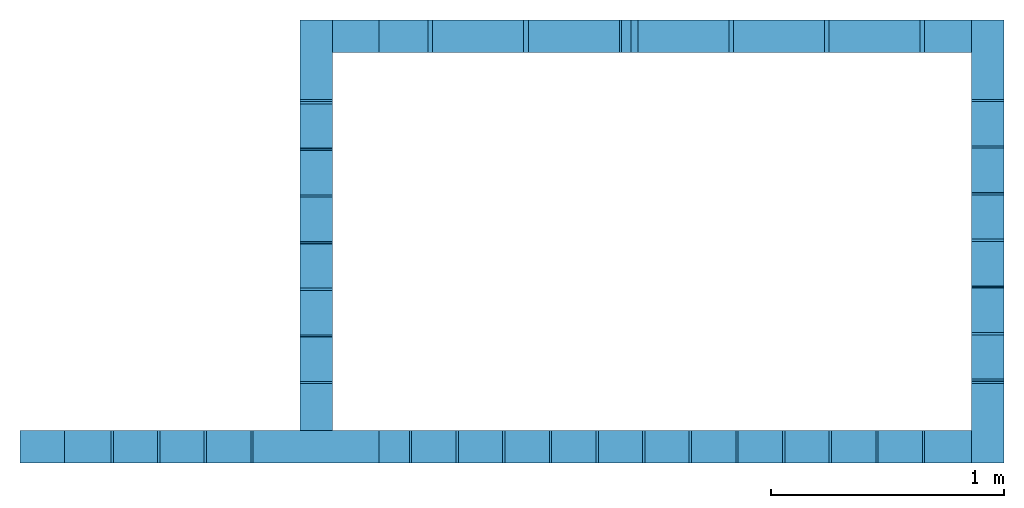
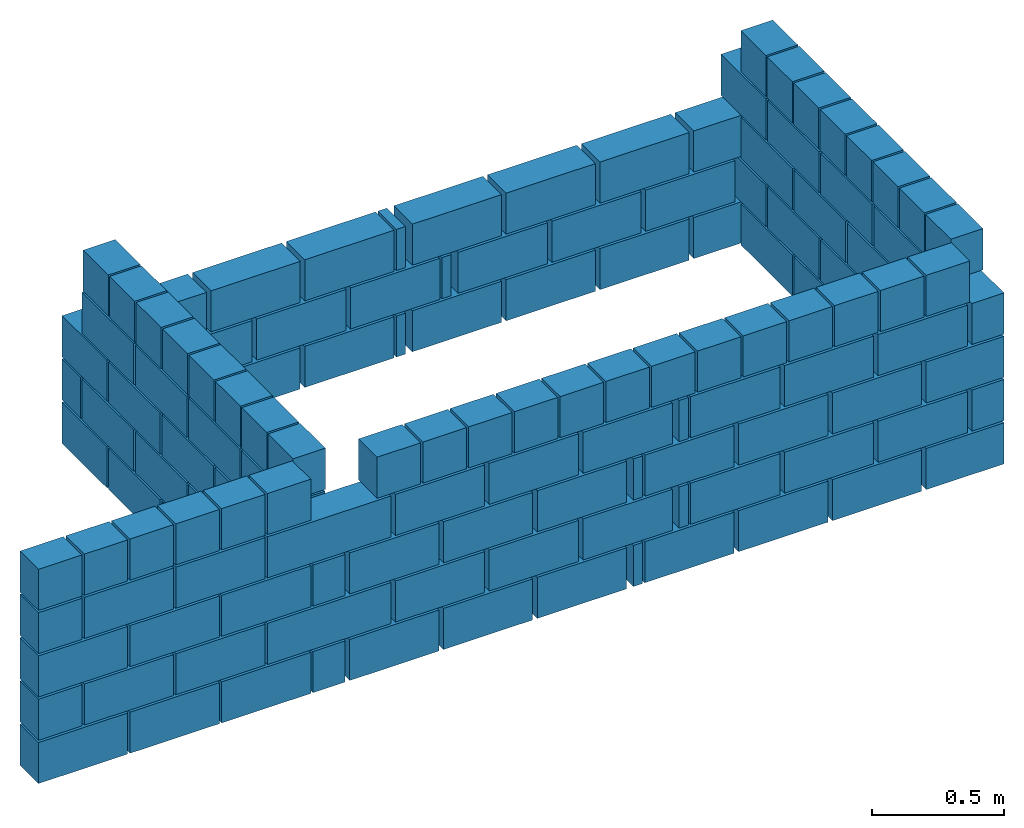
# One storey: 10 walls.
"""IFC4 building model written with IfcOpenShell, lengths in centimetres."""

from ifc_helpers import new_model, si_unit, derived_unit, frame, origin, origin_with_axes, origin_2d_with_axis, place, context, project, spatial, rectangle, extrude, element, save


model = new_model("IFC4")

# Units and contexts
model_context = context("Model", 3, precision=1e-05, world=origin_with_axes(), identifier="Body")
ifc_project = project(units=[si_unit("LENGTHUNIT", "METRE", prefix="CENTI"), si_unit("VOLUMEUNIT", "CUBIC_METRE"), si_unit("AREAUNIT", "SQUARE_METRE"), si_unit("POWERUNIT", "WATT"), si_unit("LUMINOUSFLUXUNIT", "LUMEN"), si_unit("ELECTRICCURRENTUNIT", "AMPERE"), si_unit("PRESSUREUNIT", "PASCAL", prefix="KILO"), si_unit("MASSUNIT", "GRAM", prefix="KILO"), si_unit("PLANEANGLEUNIT", "RADIAN"), derived_unit("VOLUMETRICFLOWRATEUNIT", [(si_unit("LENGTHUNIT", "METRE"), 3), (si_unit("TIMEUNIT", "SECOND"), -1)])], contexts=[model_context])

# Site, building, storey
site_placement = place(None, origin_with_axes())
site = spatial("IfcSite", under=ifc_project, at=site_placement)
building_placement = place(site_placement, origin())
building = spatial("IfcBuilding", under=site, at=building_placement)
placement_1 = place(building_placement, origin_with_axes())
placement_2 = place(placement_1, frame((0.0, 0.0, 272.0), z_axis=(0.0, 0.0, 1.0), x_axis=(1.0, 0.0, 0.0)))
placement_3 = place(placement_2, frame((0.0, 0.0, 100.0), z_axis=(0.0, 0.0, 1.0), x_axis=(1.0, 0.0, 0.0)))
storey_placement = place(placement_3, frame((0.0, 0.0, 60.0), z_axis=(0.0, 0.0, 1.0), x_axis=(1.0, 0.0, 0.0)))
storey = spatial("IfcBuildingStorey", under=building, at=storey_placement, Name="RESP2", CompositionType="ELEMENT", Elevation=432.0)

# Walls
wall_1_placement = place(storey_placement, frame((682.01, 391.01, 79.0), z_axis=(0.0, 0.0, 1.0), x_axis=(1.0, 0.0, 0.0)))
element("IfcWall", 1, at=wall_1_placement, inside=storey, context=model_context, shape_type="SolidModel", body=[
    extrude(rectangle(XDim=34.0, YDim=14.0, at=origin_2d_with_axis()), frame((0.0, -10.0, -79.0), z_axis=(0.0, 0.0, 1.0), x_axis=(-1.0, 0.0, 0.0)), (0.0, 0.0, 1.0), 19.0),
    extrude(rectangle(XDim=34.0, YDim=14.0, at=origin_2d_with_axis()), frame((10.0, 0.0, -59.0), z_axis=(0.0, 0.0, 1.0), x_axis=(0.0, 1.0, 0.0)), (0.0, 0.0, 1.0), 19.0),
    extrude(rectangle(XDim=34.0, YDim=14.0, at=origin_2d_with_axis()), frame((0.0, -10.0, -39.0), z_axis=(0.0, 0.0, 1.0), x_axis=(-1.0, 0.0, 0.0)), (0.0, 0.0, 1.0), 19.0),
    extrude(rectangle(XDim=34.0, YDim=14.0, at=origin_2d_with_axis()), frame((10.0, 0.0, -19.0), z_axis=(0.0, 0.0, 1.0), x_axis=(0.0, 1.0, 0.0)), (0.0, 0.0, 1.0), 19.0),
])
wall_2_placement = place(storey_placement, frame((296.5, 381.01, 79.0), z_axis=(0.0, 0.0, 1.0), x_axis=(1.0, 0.0, 0.0)))
element("IfcWall", 2, at=wall_2_placement, inside=storey, context=model_context, shape_type="SolidModel", body=[
    extrude(rectangle(XDim=39.0, YDim=14.0, at=origin_2d_with_axis()), frame((0.0, 0.0, -79.0), z_axis=(0.0, 0.0, 1.0), x_axis=(1.0, 0.0, 0.0)), (0.0, 0.0, 1.0), 19.0),
    extrude(rectangle(XDim=19.0, YDim=14.0, at=origin_2d_with_axis()), frame((-10.0, 0.0, -59.0), z_axis=(0.0, 0.0, 1.0), x_axis=(1.0, 0.0, 0.0)), (0.0, 0.0, 1.0), 19.0),
    extrude(rectangle(XDim=39.0, YDim=14.0, at=origin_2d_with_axis()), frame((0.0, 0.0, -39.0), z_axis=(0.0, 0.0, 1.0), x_axis=(1.0, 0.0, 0.0)), (0.0, 0.0, 1.0), 19.0),
    extrude(rectangle(XDim=19.0, YDim=14.0, at=origin_2d_with_axis()), frame((-10.0, 0.0, -19.0), z_axis=(0.0, 0.0, 1.0), x_axis=(1.0, 0.0, 0.0)), (0.0, 0.0, 1.0), 19.0),
])
wall_3_placement = place(storey_placement, frame((682.01, 547.01, 79.0), z_axis=(0.0, 0.0, 1.0), x_axis=(1.0, 0.0, 0.0)))
element("IfcWall", 3, at=wall_3_placement, inside=storey, context=model_context, shape_type="SolidModel", body=[
    extrude(rectangle(XDim=34.0, YDim=14.0, at=origin_2d_with_axis()), frame((0.0, 10.0, -79.0), z_axis=(0.0, 0.0, 1.0), x_axis=(-1.0, 0.0, 0.0)), (0.0, 0.0, 1.0), 19.0),
    extrude(rectangle(XDim=34.0, YDim=14.0, at=origin_2d_with_axis()), frame((10.0, 0.0, -59.0), z_axis=(0.0, 0.0, 1.0), x_axis=(0.0, -1.0, 0.0)), (0.0, 0.0, 1.0), 19.0),
    extrude(rectangle(XDim=34.0, YDim=14.0, at=origin_2d_with_axis()), frame((0.0, 10.0, -39.0), z_axis=(0.0, 0.0, 1.0), x_axis=(-1.0, 0.0, 0.0)), (0.0, 0.0, 1.0), 19.0),
    extrude(rectangle(XDim=34.0, YDim=14.0, at=origin_2d_with_axis()), frame((10.0, 0.0, -19.0), z_axis=(0.0, 0.0, 1.0), x_axis=(0.0, -1.0, 0.0)), (0.0, 0.0, 1.0), 19.0),
])
wall_4_placement = place(storey_placement, frame((404.01, 391.01, 79.0), z_axis=(0.0, 0.0, 1.0), x_axis=(1.0, 0.0, 0.0)))
element("IfcWall", 4, at=wall_4_placement, inside=storey, context=model_context, shape_type="SolidModel", body=[
    extrude(rectangle(XDim=34.0, YDim=14.0, at=origin_2d_with_axis()), frame((0.0, 0.0, -79.0), z_axis=(0.0, 0.0, 1.0), x_axis=(0.0, 1.0, 0.0)), (0.0, 0.0, 1.0), 19.0),
    extrude(rectangle(XDim=54.0, YDim=14.0, at=origin_2d_with_axis()), frame((0.0, -10.0, -59.0), z_axis=(0.0, 0.0, 1.0), x_axis=(-1.0, 0.0, 0.0)), (0.0, 0.0, 1.0), 19.0),
    extrude(rectangle(XDim=34.0, YDim=14.0, at=origin_2d_with_axis()), frame((0.0, 0.0, -39.0), z_axis=(0.0, 0.0, 1.0), x_axis=(0.0, 1.0, 0.0)), (0.0, 0.0, 1.0), 19.0),
    extrude(rectangle(XDim=54.0, YDim=14.0, at=origin_2d_with_axis()), frame((0.0, -10.0, -19.0), z_axis=(0.0, 0.0, 1.0), x_axis=(-1.0, 0.0, 0.0)), (0.0, 0.0, 1.0), 19.0),
])
wall_5_placement = place(storey_placement, frame((414.01, 547.01, 59.0), z_axis=(0.0, 0.0, 1.0), x_axis=(1.0, 0.0, 0.0)))
element("IfcWall", 5, at=wall_5_placement, inside=storey, context=model_context, shape_type="SolidModel", body=[
    extrude(rectangle(XDim=34.0, YDim=14.0, at=origin_2d_with_axis()), frame((-10.0, 0.0, -59.0), z_axis=(0.0, 0.0, 1.0), x_axis=(0.0, -1.0, 0.0)), (0.0, 0.0, 1.0), 19.0),
    extrude(rectangle(XDim=34.0, YDim=14.0, at=origin_2d_with_axis()), frame((0.0, 10.0, -39.0), z_axis=(0.0, 0.0, 1.0), x_axis=(1.0, 0.0, 0.0)), (0.0, 0.0, 1.0), 19.0),
    extrude(rectangle(XDim=34.0, YDim=14.0, at=origin_2d_with_axis()), frame((-10.0, 0.0, -19.0), z_axis=(0.0, 0.0, 1.0), x_axis=(0.0, -1.0, 0.0)), (0.0, 0.0, 1.0), 19.0),
])
wall_6_placement = place(storey_placement, frame((548.01, 557.01, 59.0), z_axis=(0.0, 0.0, 1.0), x_axis=(1.0, 0.0, 0.0)))
element("IfcWall", 6, at=wall_6_placement, inside=storey, Name="PAR-RESP2-1", context=model_context, shape_type="SolidModel", body=[
    extrude(rectangle(XDim=39.0, YDim=14.0, at=origin_2d_with_axis()), frame((-115.5, 0.0, -59.0), z_axis=(0.0, 0.0, 1.0), x_axis=(1.0, 0.0, 0.0)), (0.0, 0.0, 1.0), 19.0),
    extrude(rectangle(XDim=39.0, YDim=14.0, at=origin_2d_with_axis()), frame((-74.5, 0.0, -59.0), z_axis=(0.0, 0.0, 1.0), x_axis=(1.0, 0.0, 0.0)), (0.0, 0.0, 1.0), 19.0),
    extrude(rectangle(XDim=39.0, YDim=14.0, at=origin_2d_with_axis()), frame((-33.5, 0.0, -59.0), z_axis=(0.0, 0.0, 1.0), x_axis=(1.0, 0.0, 0.0)), (0.0, 0.0, 1.0), 19.0),
    extrude(rectangle(XDim=39.0, YDim=14.0, at=origin_2d_with_axis()), frame((13.5, 0.0, -59.0), z_axis=(0.0, 0.0, 1.0), x_axis=(1.0, 0.0, 0.0)), (0.0, 0.0, 1.0), 19.0),
    extrude(rectangle(XDim=39.0, YDim=14.0, at=origin_2d_with_axis()), frame((54.5, 0.0, -59.0), z_axis=(0.0, 0.0, 1.0), x_axis=(1.0, 0.0, 0.0)), (0.0, 0.0, 1.0), 19.0),
    extrude(rectangle(XDim=39.0, YDim=14.0, at=origin_2d_with_axis()), frame((95.5, 0.0, -59.0), z_axis=(0.0, 0.0, 1.0), x_axis=(1.0, 0.0, 0.0)), (0.0, 0.0, 1.0), 19.0),
    extrude(rectangle(XDim=4.0, YDim=14.0, at=origin_2d_with_axis()), frame((-11.0, 0.0, -59.0), z_axis=(0.0, 0.0, 1.0), x_axis=(1.0, 0.0, 0.0)), (0.0, 0.0, 1.0), 19.0),
    extrude(rectangle(XDim=39.0, YDim=14.0, at=origin_2d_with_axis()), frame((-95.5, 0.0, -39.0), z_axis=(0.0, 0.0, 1.0), x_axis=(1.0, 0.0, 0.0)), (0.0, 0.0, 1.0), 19.0),
    extrude(rectangle(XDim=39.0, YDim=14.0, at=origin_2d_with_axis()), frame((-54.5, 0.0, -39.0), z_axis=(0.0, 0.0, 1.0), x_axis=(1.0, 0.0, 0.0)), (0.0, 0.0, 1.0), 19.0),
    extrude(rectangle(XDim=39.0, YDim=14.0, at=origin_2d_with_axis()), frame((-13.5, 0.0, -39.0), z_axis=(0.0, 0.0, 1.0), x_axis=(1.0, 0.0, 0.0)), (0.0, 0.0, 1.0), 19.0),
    extrude(rectangle(XDim=39.0, YDim=14.0, at=origin_2d_with_axis()), frame((33.5, 0.0, -39.0), z_axis=(0.0, 0.0, 1.0), x_axis=(1.0, 0.0, 0.0)), (0.0, 0.0, 1.0), 19.0),
    extrude(rectangle(XDim=39.0, YDim=14.0, at=origin_2d_with_axis()), frame((74.5, 0.0, -39.0), z_axis=(0.0, 0.0, 1.0), x_axis=(1.0, 0.0, 0.0)), (0.0, 0.0, 1.0), 19.0),
    extrude(rectangle(XDim=39.0, YDim=14.0, at=origin_2d_with_axis()), frame((115.5, 0.0, -39.0), z_axis=(0.0, 0.0, 1.0), x_axis=(1.0, 0.0, 0.0)), (0.0, 0.0, 1.0), 19.0),
    extrude(rectangle(XDim=4.0, YDim=14.0, at=origin_2d_with_axis()), frame((9.0, 0.0, -39.0), z_axis=(0.0, 0.0, 1.0), x_axis=(1.0, 0.0, 0.0)), (0.0, 0.0, 1.0), 19.0),
    extrude(rectangle(XDim=39.0, YDim=14.0, at=origin_2d_with_axis()), frame((-115.5, 0.0, -19.0), z_axis=(0.0, 0.0, 1.0), x_axis=(1.0, 0.0, 0.0)), (0.0, 0.0, 1.0), 19.0),
    extrude(rectangle(XDim=39.0, YDim=14.0, at=origin_2d_with_axis()), frame((-74.5, 0.0, -19.0), z_axis=(0.0, 0.0, 1.0), x_axis=(1.0, 0.0, 0.0)), (0.0, 0.0, 1.0), 19.0),
    extrude(rectangle(XDim=39.0, YDim=14.0, at=origin_2d_with_axis()), frame((-33.5, 0.0, -19.0), z_axis=(0.0, 0.0, 1.0), x_axis=(1.0, 0.0, 0.0)), (0.0, 0.0, 1.0), 19.0),
    extrude(rectangle(XDim=39.0, YDim=14.0, at=origin_2d_with_axis()), frame((13.5, 0.0, -19.0), z_axis=(0.0, 0.0, 1.0), x_axis=(1.0, 0.0, 0.0)), (0.0, 0.0, 1.0), 19.0),
    extrude(rectangle(XDim=39.0, YDim=14.0, at=origin_2d_with_axis()), frame((54.5, 0.0, -19.0), z_axis=(0.0, 0.0, 1.0), x_axis=(1.0, 0.0, 0.0)), (0.0, 0.0, 1.0), 19.0),
    extrude(rectangle(XDim=39.0, YDim=14.0, at=origin_2d_with_axis()), frame((95.5, 0.0, -19.0), z_axis=(0.0, 0.0, 1.0), x_axis=(1.0, 0.0, 0.0)), (0.0, 0.0, 1.0), 19.0),
    extrude(rectangle(XDim=4.0, YDim=14.0, at=origin_2d_with_axis()), frame((-11.0, 0.0, -19.0), z_axis=(0.0, 0.0, 1.0), x_axis=(1.0, 0.0, 0.0)), (0.0, 0.0, 1.0), 19.0),
])
wall_7_placement = place(storey_placement, frame((548.51, 381.01, 99.0), z_axis=(0.0, 0.0, 1.0), x_axis=(1.0, 0.0, 0.0)))
element("IfcWall", 7, at=wall_7_placement, inside=storey, Name="PAR-RESP2-2", context=model_context, shape_type="SolidModel", body=[
    extrude(rectangle(XDim=39.0, YDim=14.0, at=origin_2d_with_axis()), frame((95.0, 0.0, -99.0), z_axis=(0.0, 0.0, 1.0), x_axis=(-1.0, 0.0, 0.0)), (0.0, 0.0, 1.0), 19.0),
    extrude(rectangle(XDim=39.0, YDim=14.0, at=origin_2d_with_axis()), frame((54.0, 0.0, -99.0), z_axis=(0.0, 0.0, 1.0), x_axis=(-1.0, 0.0, 0.0)), (0.0, 0.0, 1.0), 19.0),
    extrude(rectangle(XDim=39.0, YDim=14.0, at=origin_2d_with_axis()), frame((13.0, 0.0, -99.0), z_axis=(0.0, 0.0, 1.0), x_axis=(-1.0, 0.0, 0.0)), (0.0, 0.0, 1.0), 19.0),
    extrude(rectangle(XDim=39.0, YDim=14.0, at=origin_2d_with_axis()), frame((-34.0, 0.0, -99.0), z_axis=(0.0, 0.0, 1.0), x_axis=(-1.0, 0.0, 0.0)), (0.0, 0.0, 1.0), 19.0),
    extrude(rectangle(XDim=39.0, YDim=14.0, at=origin_2d_with_axis()), frame((-75.0, 0.0, -99.0), z_axis=(0.0, 0.0, 1.0), x_axis=(-1.0, 0.0, 0.0)), (0.0, 0.0, 1.0), 19.0),
    extrude(rectangle(XDim=39.0, YDim=14.0, at=origin_2d_with_axis()), frame((-116.0, 0.0, -99.0), z_axis=(0.0, 0.0, 1.0), x_axis=(-1.0, 0.0, 0.0)), (0.0, 0.0, 1.0), 19.0),
    extrude(rectangle(XDim=4.0, YDim=14.0, at=origin_2d_with_axis()), frame((-9.5, 0.0, -99.0), z_axis=(0.0, 0.0, 1.0), x_axis=(-1.0, 0.0, 0.0)), (0.0, 0.0, 1.0), 19.0),
    extrude(rectangle(XDim=39.0, YDim=14.0, at=origin_2d_with_axis()), frame((115.0, 0.0, -79.0), z_axis=(0.0, 0.0, 1.0), x_axis=(-1.0, 0.0, 0.0)), (0.0, 0.0, 1.0), 19.0),
    extrude(rectangle(XDim=39.0, YDim=14.0, at=origin_2d_with_axis()), frame((74.0, 0.0, -79.0), z_axis=(0.0, 0.0, 1.0), x_axis=(-1.0, 0.0, 0.0)), (0.0, 0.0, 1.0), 19.0),
    extrude(rectangle(XDim=39.0, YDim=14.0, at=origin_2d_with_axis()), frame((33.0, 0.0, -79.0), z_axis=(0.0, 0.0, 1.0), x_axis=(-1.0, 0.0, 0.0)), (0.0, 0.0, 1.0), 19.0),
    extrude(rectangle(XDim=39.0, YDim=14.0, at=origin_2d_with_axis()), frame((-14.0, 0.0, -79.0), z_axis=(0.0, 0.0, 1.0), x_axis=(-1.0, 0.0, 0.0)), (0.0, 0.0, 1.0), 19.0),
    extrude(rectangle(XDim=39.0, YDim=14.0, at=origin_2d_with_axis()), frame((-55.0, 0.0, -79.0), z_axis=(0.0, 0.0, 1.0), x_axis=(-1.0, 0.0, 0.0)), (0.0, 0.0, 1.0), 19.0),
    extrude(rectangle(XDim=39.0, YDim=14.0, at=origin_2d_with_axis()), frame((-96.0, 0.0, -79.0), z_axis=(0.0, 0.0, 1.0), x_axis=(-1.0, 0.0, 0.0)), (0.0, 0.0, 1.0), 19.0),
    extrude(rectangle(XDim=4.0, YDim=14.0, at=origin_2d_with_axis()), frame((10.5, 0.0, -79.0), z_axis=(0.0, 0.0, 1.0), x_axis=(-1.0, 0.0, 0.0)), (0.0, 0.0, 1.0), 19.0),
    extrude(rectangle(XDim=39.0, YDim=14.0, at=origin_2d_with_axis()), frame((95.0, 0.0, -59.0), z_axis=(0.0, 0.0, 1.0), x_axis=(-1.0, 0.0, 0.0)), (0.0, 0.0, 1.0), 19.0),
    extrude(rectangle(XDim=39.0, YDim=14.0, at=origin_2d_with_axis()), frame((54.0, 0.0, -59.0), z_axis=(0.0, 0.0, 1.0), x_axis=(-1.0, 0.0, 0.0)), (0.0, 0.0, 1.0), 19.0),
    extrude(rectangle(XDim=39.0, YDim=14.0, at=origin_2d_with_axis()), frame((13.0, 0.0, -59.0), z_axis=(0.0, 0.0, 1.0), x_axis=(-1.0, 0.0, 0.0)), (0.0, 0.0, 1.0), 19.0),
    extrude(rectangle(XDim=39.0, YDim=14.0, at=origin_2d_with_axis()), frame((-34.0, 0.0, -59.0), z_axis=(0.0, 0.0, 1.0), x_axis=(-1.0, 0.0, 0.0)), (0.0, 0.0, 1.0), 19.0),
    extrude(rectangle(XDim=39.0, YDim=14.0, at=origin_2d_with_axis()), frame((-75.0, 0.0, -59.0), z_axis=(0.0, 0.0, 1.0), x_axis=(-1.0, 0.0, 0.0)), (0.0, 0.0, 1.0), 19.0),
    extrude(rectangle(XDim=39.0, YDim=14.0, at=origin_2d_with_axis()), frame((-116.0, 0.0, -59.0), z_axis=(0.0, 0.0, 1.0), x_axis=(-1.0, 0.0, 0.0)), (0.0, 0.0, 1.0), 19.0),
    extrude(rectangle(XDim=4.0, YDim=14.0, at=origin_2d_with_axis()), frame((-9.5, 0.0, -59.0), z_axis=(0.0, 0.0, 1.0), x_axis=(-1.0, 0.0, 0.0)), (0.0, 0.0, 1.0), 19.0),
    extrude(rectangle(XDim=39.0, YDim=14.0, at=origin_2d_with_axis()), frame((115.0, 0.0, -39.0), z_axis=(0.0, 0.0, 1.0), x_axis=(-1.0, 0.0, 0.0)), (0.0, 0.0, 1.0), 19.0),
    extrude(rectangle(XDim=39.0, YDim=14.0, at=origin_2d_with_axis()), frame((74.0, 0.0, -39.0), z_axis=(0.0, 0.0, 1.0), x_axis=(-1.0, 0.0, 0.0)), (0.0, 0.0, 1.0), 19.0),
    extrude(rectangle(XDim=39.0, YDim=14.0, at=origin_2d_with_axis()), frame((33.0, 0.0, -39.0), z_axis=(0.0, 0.0, 1.0), x_axis=(-1.0, 0.0, 0.0)), (0.0, 0.0, 1.0), 19.0),
    extrude(rectangle(XDim=39.0, YDim=14.0, at=origin_2d_with_axis()), frame((-14.0, 0.0, -39.0), z_axis=(0.0, 0.0, 1.0), x_axis=(-1.0, 0.0, 0.0)), (0.0, 0.0, 1.0), 19.0),
    extrude(rectangle(XDim=39.0, YDim=14.0, at=origin_2d_with_axis()), frame((-55.0, 0.0, -39.0), z_axis=(0.0, 0.0, 1.0), x_axis=(-1.0, 0.0, 0.0)), (0.0, 0.0, 1.0), 19.0),
    extrude(rectangle(XDim=39.0, YDim=14.0, at=origin_2d_with_axis()), frame((-96.0, 0.0, -39.0), z_axis=(0.0, 0.0, 1.0), x_axis=(-1.0, 0.0, 0.0)), (0.0, 0.0, 1.0), 19.0),
    extrude(rectangle(XDim=4.0, YDim=14.0, at=origin_2d_with_axis()), frame((10.5, 0.0, -39.0), z_axis=(0.0, 0.0, 1.0), x_axis=(-1.0, 0.0, 0.0)), (0.0, 0.0, 1.0), 19.0),
    extrude(rectangle(XDim=19.0, YDim=14.0, at=origin_2d_with_axis()), frame((126.0, 0.0, -19.0), z_axis=(0.0, 0.0, 1.0), x_axis=(-1.0, 0.0, 0.0)), (0.0, 0.0, 1.0), 19.0),
    extrude(rectangle(XDim=19.0, YDim=14.0, at=origin_2d_with_axis()), frame((106.0, 0.0, -19.0), z_axis=(0.0, 0.0, 1.0), x_axis=(-1.0, 0.0, 0.0)), (0.0, 0.0, 1.0), 19.0),
    extrude(rectangle(XDim=19.0, YDim=14.0, at=origin_2d_with_axis()), frame((86.0, 0.0, -19.0), z_axis=(0.0, 0.0, 1.0), x_axis=(-1.0, 0.0, 0.0)), (0.0, 0.0, 1.0), 19.0),
    extrude(rectangle(XDim=19.0, YDim=14.0, at=origin_2d_with_axis()), frame((66.0, 0.0, -19.0), z_axis=(0.0, 0.0, 1.0), x_axis=(-1.0, 0.0, 0.0)), (0.0, 0.0, 1.0), 19.0),
    extrude(rectangle(XDim=19.0, YDim=14.0, at=origin_2d_with_axis()), frame((46.0, 0.0, -19.0), z_axis=(0.0, 0.0, 1.0), x_axis=(-1.0, 0.0, 0.0)), (0.0, 0.0, 1.0), 19.0),
    extrude(rectangle(XDim=19.0, YDim=14.0, at=origin_2d_with_axis()), frame((26.0, 0.0, -19.0), z_axis=(0.0, 0.0, 1.0), x_axis=(-1.0, 0.0, 0.0)), (0.0, 0.0, 1.0), 19.0),
    extrude(rectangle(XDim=19.0, YDim=14.0, at=origin_2d_with_axis()), frame((6.0, 0.0, -19.0), z_axis=(0.0, 0.0, 1.0), x_axis=(-1.0, 0.0, 0.0)), (0.0, 0.0, 1.0), 19.0),
    extrude(rectangle(XDim=19.0, YDim=14.0, at=origin_2d_with_axis()), frame((-14.0, 0.0, -19.0), z_axis=(0.0, 0.0, 1.0), x_axis=(-1.0, 0.0, 0.0)), (0.0, 0.0, 1.0), 19.0),
    extrude(rectangle(XDim=19.0, YDim=14.0, at=origin_2d_with_axis()), frame((-34.0, 0.0, -19.0), z_axis=(0.0, 0.0, 1.0), x_axis=(-1.0, 0.0, 0.0)), (0.0, 0.0, 1.0), 19.0),
    extrude(rectangle(XDim=19.0, YDim=14.0, at=origin_2d_with_axis()), frame((-54.0, 0.0, -19.0), z_axis=(0.0, 0.0, 1.0), x_axis=(-1.0, 0.0, 0.0)), (0.0, 0.0, 1.0), 19.0),
    extrude(rectangle(XDim=19.0, YDim=14.0, at=origin_2d_with_axis()), frame((-74.0, 0.0, -19.0), z_axis=(0.0, 0.0, 1.0), x_axis=(-1.0, 0.0, 0.0)), (0.0, 0.0, 1.0), 19.0),
    extrude(rectangle(XDim=19.0, YDim=14.0, at=origin_2d_with_axis()), frame((-94.0, 0.0, -19.0), z_axis=(0.0, 0.0, 1.0), x_axis=(-1.0, 0.0, 0.0)), (0.0, 0.0, 1.0), 19.0),
    extrude(rectangle(XDim=19.0, YDim=14.0, at=origin_2d_with_axis()), frame((-114.0, 0.0, -19.0), z_axis=(0.0, 0.0, 1.0), x_axis=(-1.0, 0.0, 0.0)), (0.0, 0.0, 1.0), 19.0),
])
wall_8_placement = place(storey_placement, frame((336.51, 381.01, 99.0), z_axis=(0.0, 0.0, 1.0), x_axis=(1.0, 0.0, 0.0)))
element("IfcWall", 8, at=wall_8_placement, inside=storey, Name="PAR-RESP2-2", context=model_context, shape_type="SolidModel", body=[
    extrude(rectangle(XDim=39.0, YDim=14.0, at=origin_2d_with_axis()), frame((40.0, 0.0, -99.0), z_axis=(0.0, 0.0, 1.0), x_axis=(-1.0, 0.0, 0.0)), (0.0, 0.0, 1.0), 19.0),
    extrude(rectangle(XDim=39.0, YDim=14.0, at=origin_2d_with_axis()), frame((0.0, 0.0, -99.0), z_axis=(0.0, 0.0, 1.0), x_axis=(-1.0, 0.0, 0.0)), (0.0, 0.0, 1.0), 19.0),
    extrude(rectangle(XDim=39.0, YDim=14.0, at=origin_2d_with_axis()), frame((20.0, 0.0, -79.0), z_axis=(0.0, 0.0, 1.0), x_axis=(-1.0, 0.0, 0.0)), (0.0, 0.0, 1.0), 19.0),
    extrude(rectangle(XDim=39.0, YDim=14.0, at=origin_2d_with_axis()), frame((-20.0, 0.0, -79.0), z_axis=(0.0, 0.0, 1.0), x_axis=(-1.0, 0.0, 0.0)), (0.0, 0.0, 1.0), 19.0),
    extrude(rectangle(XDim=39.0, YDim=14.0, at=origin_2d_with_axis()), frame((40.0, 0.0, -59.0), z_axis=(0.0, 0.0, 1.0), x_axis=(-1.0, 0.0, 0.0)), (0.0, 0.0, 1.0), 19.0),
    extrude(rectangle(XDim=39.0, YDim=14.0, at=origin_2d_with_axis()), frame((0.0, 0.0, -59.0), z_axis=(0.0, 0.0, 1.0), x_axis=(-1.0, 0.0, 0.0)), (0.0, 0.0, 1.0), 19.0),
    extrude(rectangle(XDim=39.0, YDim=14.0, at=origin_2d_with_axis()), frame((20.0, 0.0, -39.0), z_axis=(0.0, 0.0, 1.0), x_axis=(-1.0, 0.0, 0.0)), (0.0, 0.0, 1.0), 19.0),
    extrude(rectangle(XDim=39.0, YDim=14.0, at=origin_2d_with_axis()), frame((-20.0, 0.0, -39.0), z_axis=(0.0, 0.0, 1.0), x_axis=(-1.0, 0.0, 0.0)), (0.0, 0.0, 1.0), 19.0),
    extrude(rectangle(XDim=19.0, YDim=14.0, at=origin_2d_with_axis()), frame((50.0, 0.0, -19.0), z_axis=(0.0, 0.0, 1.0), x_axis=(-1.0, 0.0, 0.0)), (0.0, 0.0, 1.0), 19.0),
    extrude(rectangle(XDim=19.0, YDim=14.0, at=origin_2d_with_axis()), frame((30.0, 0.0, -19.0), z_axis=(0.0, 0.0, 1.0), x_axis=(-1.0, 0.0, 0.0)), (0.0, 0.0, 1.0), 19.0),
    extrude(rectangle(XDim=19.0, YDim=14.0, at=origin_2d_with_axis()), frame((10.0, 0.0, -19.0), z_axis=(0.0, 0.0, 1.0), x_axis=(-1.0, 0.0, 0.0)), (0.0, 0.0, 1.0), 19.0),
    extrude(rectangle(XDim=19.0, YDim=14.0, at=origin_2d_with_axis()), frame((-10.0, 0.0, -19.0), z_axis=(0.0, 0.0, 1.0), x_axis=(-1.0, 0.0, 0.0)), (0.0, 0.0, 1.0), 19.0),
    extrude(rectangle(XDim=19.0, YDim=14.0, at=origin_2d_with_axis()), frame((-30.0, 0.0, -19.0), z_axis=(0.0, 0.0, 1.0), x_axis=(-1.0, 0.0, 0.0)), (0.0, 0.0, 1.0), 19.0),
    extrude(rectangle(XDim=19.0, YDim=14.0, at=origin_2d_with_axis()), frame((-50.0, 0.0, -19.0), z_axis=(0.0, 0.0, 1.0), x_axis=(-1.0, 0.0, 0.0)), (0.0, 0.0, 1.0), 19.0),
])
wall_9_placement = place(storey_placement, frame((404.01, 468.91, 99.0), z_axis=(0.0, 0.0, 1.0), x_axis=(1.0, 0.0, 0.0)))
element("IfcWall", 9, at=wall_9_placement, inside=storey, Name="PAR-RESP2-3", context=model_context, shape_type="SolidModel", body=[
    extrude(rectangle(XDim=39.0, YDim=14.0, at=origin_2d_with_axis()), frame((0.0, -40.15, -99.0), z_axis=(0.0, 0.0, 1.0), x_axis=(0.0, 1.0, 0.0)), (0.0, 0.0, 1.0), 19.0),
    extrude(rectangle(XDim=39.0, YDim=14.0, at=origin_2d_with_axis()), frame((0.0, 0.1, -99.0), z_axis=(0.0, 0.0, 1.0), x_axis=(0.0, 1.0, 0.0)), (0.0, 0.0, 1.0), 19.0),
    extrude(rectangle(XDim=39.0, YDim=14.0, at=origin_2d_with_axis()), frame((0.0, 40.35, -99.0), z_axis=(0.0, 0.0, 1.0), x_axis=(0.0, 1.0, 0.0)), (0.0, 0.0, 1.0), 19.0),
    extrude(rectangle(XDim=39.0, YDim=14.0, at=origin_2d_with_axis()), frame((0.0, -60.2, -79.0), z_axis=(0.0, 0.0, 1.0), x_axis=(0.0, 1.0, 0.0)), (0.0, 0.0, 1.0), 19.0),
    extrude(rectangle(XDim=39.0, YDim=14.0, at=origin_2d_with_axis()), frame((0.0, -20.0, -79.0), z_axis=(0.0, 0.0, 1.0), x_axis=(0.0, 1.0, 0.0)), (0.0, 0.0, 1.0), 19.0),
    extrude(rectangle(XDim=39.0, YDim=14.0, at=origin_2d_with_axis()), frame((0.0, 20.2, -79.0), z_axis=(0.0, 0.0, 1.0), x_axis=(0.0, 1.0, 0.0)), (0.0, 0.0, 1.0), 19.0),
    extrude(rectangle(XDim=39.0, YDim=14.0, at=origin_2d_with_axis()), frame((0.0, 60.4, -79.0), z_axis=(0.0, 0.0, 1.0), x_axis=(0.0, 1.0, 0.0)), (0.0, 0.0, 1.0), 19.0),
    extrude(rectangle(XDim=39.0, YDim=14.0, at=origin_2d_with_axis()), frame((0.0, -40.15, -59.0), z_axis=(0.0, 0.0, 1.0), x_axis=(0.0, 1.0, 0.0)), (0.0, 0.0, 1.0), 19.0),
    extrude(rectangle(XDim=39.0, YDim=14.0, at=origin_2d_with_axis()), frame((0.0, 0.1, -59.0), z_axis=(0.0, 0.0, 1.0), x_axis=(0.0, 1.0, 0.0)), (0.0, 0.0, 1.0), 19.0),
    extrude(rectangle(XDim=39.0, YDim=14.0, at=origin_2d_with_axis()), frame((0.0, 40.35, -59.0), z_axis=(0.0, 0.0, 1.0), x_axis=(0.0, 1.0, 0.0)), (0.0, 0.0, 1.0), 19.0),
    extrude(rectangle(XDim=39.0, YDim=14.0, at=origin_2d_with_axis()), frame((0.0, -60.2, -39.0), z_axis=(0.0, 0.0, 1.0), x_axis=(0.0, 1.0, 0.0)), (0.0, 0.0, 1.0), 19.0),
    extrude(rectangle(XDim=39.0, YDim=14.0, at=origin_2d_with_axis()), frame((0.0, -20.0, -39.0), z_axis=(0.0, 0.0, 1.0), x_axis=(0.0, 1.0, 0.0)), (0.0, 0.0, 1.0), 19.0),
    extrude(rectangle(XDim=39.0, YDim=14.0, at=origin_2d_with_axis()), frame((0.0, 20.2, -39.0), z_axis=(0.0, 0.0, 1.0), x_axis=(0.0, 1.0, 0.0)), (0.0, 0.0, 1.0), 19.0),
    extrude(rectangle(XDim=39.0, YDim=14.0, at=origin_2d_with_axis()), frame((0.0, 60.4, -39.0), z_axis=(0.0, 0.0, 1.0), x_axis=(0.0, 1.0, 0.0)), (0.0, 0.0, 1.0), 19.0),
    extrude(rectangle(XDim=19.0, YDim=14.0, at=origin_2d_with_axis()), frame((0.0, -70.4, -19.0), z_axis=(0.0, 0.0, 1.0), x_axis=(0.0, 1.0, 0.0)), (0.0, 0.0, 1.0), 19.0),
    extrude(rectangle(XDim=19.0, YDim=14.0, at=origin_2d_with_axis()), frame((0.0, -50.4, -19.0), z_axis=(0.0, 0.0, 1.0), x_axis=(0.0, 1.0, 0.0)), (0.0, 0.0, 1.0), 19.0),
    extrude(rectangle(XDim=19.0, YDim=14.0, at=origin_2d_with_axis()), frame((0.0, -30.4, -19.0), z_axis=(0.0, 0.0, 1.0), x_axis=(0.0, 1.0, 0.0)), (0.0, 0.0, 1.0), 19.0),
    extrude(rectangle(XDim=19.0, YDim=14.0, at=origin_2d_with_axis()), frame((0.0, -10.4, -19.0), z_axis=(0.0, 0.0, 1.0), x_axis=(0.0, 1.0, 0.0)), (0.0, 0.0, 1.0), 19.0),
    extrude(rectangle(XDim=19.0, YDim=14.0, at=origin_2d_with_axis()), frame((0.0, 9.6, -19.0), z_axis=(0.0, 0.0, 1.0), x_axis=(0.0, 1.0, 0.0)), (0.0, 0.0, 1.0), 19.0),
    extrude(rectangle(XDim=19.0, YDim=14.0, at=origin_2d_with_axis()), frame((0.0, 29.6, -19.0), z_axis=(0.0, 0.0, 1.0), x_axis=(0.0, 1.0, 0.0)), (0.0, 0.0, 1.0), 19.0),
    extrude(rectangle(XDim=19.0, YDim=14.0, at=origin_2d_with_axis()), frame((0.0, 49.6, -19.0), z_axis=(0.0, 0.0, 1.0), x_axis=(0.0, 1.0, 0.0)), (0.0, 0.0, 1.0), 19.0),
    extrude(rectangle(XDim=19.0, YDim=14.0, at=origin_2d_with_axis()), frame((0.0, 69.6, -19.0), z_axis=(0.0, 0.0, 1.0), x_axis=(0.0, 1.0, 0.0)), (0.0, 0.0, 1.0), 19.0),
])
wall_10_placement = place(storey_placement, frame((692.01, 469.11, 99.0), z_axis=(0.0, 0.0, 1.0), x_axis=(1.0, 0.0, 0.0)))
element("IfcWall", 10, at=wall_10_placement, inside=storey, Name="PAR-RESP2-4", context=model_context, shape_type="SolidModel", body=[
    extrude(rectangle(XDim=39.0, YDim=14.0, at=origin_2d_with_axis()), frame((0.0, 60.2, -99.0), z_axis=(0.0, 0.0, 1.0), x_axis=(0.0, -1.0, 0.0)), (0.0, 0.0, 1.0), 19.0),
    extrude(rectangle(XDim=39.0, YDim=14.0, at=origin_2d_with_axis()), frame((0.0, 20.0, -99.0), z_axis=(0.0, 0.0, 1.0), x_axis=(0.0, -1.0, 0.0)), (0.0, 0.0, 1.0), 19.0),
    extrude(rectangle(XDim=39.0, YDim=14.0, at=origin_2d_with_axis()), frame((0.0, -20.2, -99.0), z_axis=(0.0, 0.0, 1.0), x_axis=(0.0, -1.0, 0.0)), (0.0, 0.0, 1.0), 19.0),
    extrude(rectangle(XDim=39.0, YDim=14.0, at=origin_2d_with_axis()), frame((0.0, -60.4, -99.0), z_axis=(0.0, 0.0, 1.0), x_axis=(0.0, -1.0, 0.0)), (0.0, 0.0, 1.0), 19.0),
    extrude(rectangle(XDim=39.0, YDim=14.0, at=origin_2d_with_axis()), frame((0.0, 40.15, -79.0), z_axis=(0.0, 0.0, 1.0), x_axis=(0.0, -1.0, 0.0)), (0.0, 0.0, 1.0), 19.0),
    extrude(rectangle(XDim=39.0, YDim=14.0, at=origin_2d_with_axis()), frame((0.0, -0.1, -79.0), z_axis=(0.0, 0.0, 1.0), x_axis=(0.0, -1.0, 0.0)), (0.0, 0.0, 1.0), 19.0),
    extrude(rectangle(XDim=39.0, YDim=14.0, at=origin_2d_with_axis()), frame((0.0, -40.35, -79.0), z_axis=(0.0, 0.0, 1.0), x_axis=(0.0, -1.0, 0.0)), (0.0, 0.0, 1.0), 19.0),
    extrude(rectangle(XDim=39.0, YDim=14.0, at=origin_2d_with_axis()), frame((0.0, 60.2, -59.0), z_axis=(0.0, 0.0, 1.0), x_axis=(0.0, -1.0, 0.0)), (0.0, 0.0, 1.0), 19.0),
    extrude(rectangle(XDim=39.0, YDim=14.0, at=origin_2d_with_axis()), frame((0.0, 20.0, -59.0), z_axis=(0.0, 0.0, 1.0), x_axis=(0.0, -1.0, 0.0)), (0.0, 0.0, 1.0), 19.0),
    extrude(rectangle(XDim=39.0, YDim=14.0, at=origin_2d_with_axis()), frame((0.0, -20.2, -59.0), z_axis=(0.0, 0.0, 1.0), x_axis=(0.0, -1.0, 0.0)), (0.0, 0.0, 1.0), 19.0),
    extrude(rectangle(XDim=39.0, YDim=14.0, at=origin_2d_with_axis()), frame((0.0, -60.4, -59.0), z_axis=(0.0, 0.0, 1.0), x_axis=(0.0, -1.0, 0.0)), (0.0, 0.0, 1.0), 19.0),
    extrude(rectangle(XDim=39.0, YDim=14.0, at=origin_2d_with_axis()), frame((0.0, 40.15, -39.0), z_axis=(0.0, 0.0, 1.0), x_axis=(0.0, -1.0, 0.0)), (0.0, 0.0, 1.0), 19.0),
    extrude(rectangle(XDim=39.0, YDim=14.0, at=origin_2d_with_axis()), frame((0.0, -0.1, -39.0), z_axis=(0.0, 0.0, 1.0), x_axis=(0.0, -1.0, 0.0)), (0.0, 0.0, 1.0), 19.0),
    extrude(rectangle(XDim=39.0, YDim=14.0, at=origin_2d_with_axis()), frame((0.0, -40.35, -39.0), z_axis=(0.0, 0.0, 1.0), x_axis=(0.0, -1.0, 0.0)), (0.0, 0.0, 1.0), 19.0),
    extrude(rectangle(XDim=19.0, YDim=14.0, at=origin_2d_with_axis()), frame((0.0, 70.4, -19.0), z_axis=(0.0, 0.0, 1.0), x_axis=(0.0, -1.0, 0.0)), (0.0, 0.0, 1.0), 19.0),
    extrude(rectangle(XDim=19.0, YDim=14.0, at=origin_2d_with_axis()), frame((0.0, 50.4, -19.0), z_axis=(0.0, 0.0, 1.0), x_axis=(0.0, -1.0, 0.0)), (0.0, 0.0, 1.0), 19.0),
    extrude(rectangle(XDim=19.0, YDim=14.0, at=origin_2d_with_axis()), frame((0.0, 30.4, -19.0), z_axis=(0.0, 0.0, 1.0), x_axis=(0.0, -1.0, 0.0)), (0.0, 0.0, 1.0), 19.0),
    extrude(rectangle(XDim=19.0, YDim=14.0, at=origin_2d_with_axis()), frame((0.0, 10.4, -19.0), z_axis=(0.0, 0.0, 1.0), x_axis=(0.0, -1.0, 0.0)), (0.0, 0.0, 1.0), 19.0),
    extrude(rectangle(XDim=19.0, YDim=14.0, at=origin_2d_with_axis()), frame((0.0, -9.6, -19.0), z_axis=(0.0, 0.0, 1.0), x_axis=(0.0, -1.0, 0.0)), (0.0, 0.0, 1.0), 19.0),
    extrude(rectangle(XDim=19.0, YDim=14.0, at=origin_2d_with_axis()), frame((0.0, -29.6, -19.0), z_axis=(0.0, 0.0, 1.0), x_axis=(0.0, -1.0, 0.0)), (0.0, 0.0, 1.0), 19.0),
    extrude(rectangle(XDim=19.0, YDim=14.0, at=origin_2d_with_axis()), frame((0.0, -49.6, -19.0), z_axis=(0.0, 0.0, 1.0), x_axis=(0.0, -1.0, 0.0)), (0.0, 0.0, 1.0), 19.0),
    extrude(rectangle(XDim=19.0, YDim=14.0, at=origin_2d_with_axis()), frame((0.0, -69.6, -19.0), z_axis=(0.0, 0.0, 1.0), x_axis=(0.0, -1.0, 0.0)), (0.0, 0.0, 1.0), 19.0),
])

save(model, "model.ifc")
